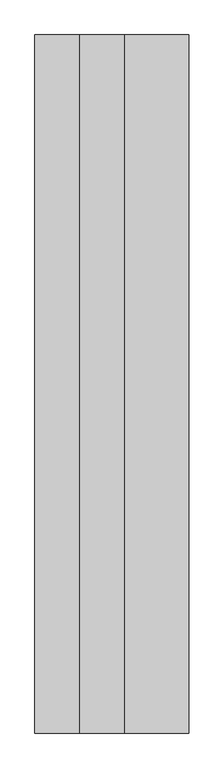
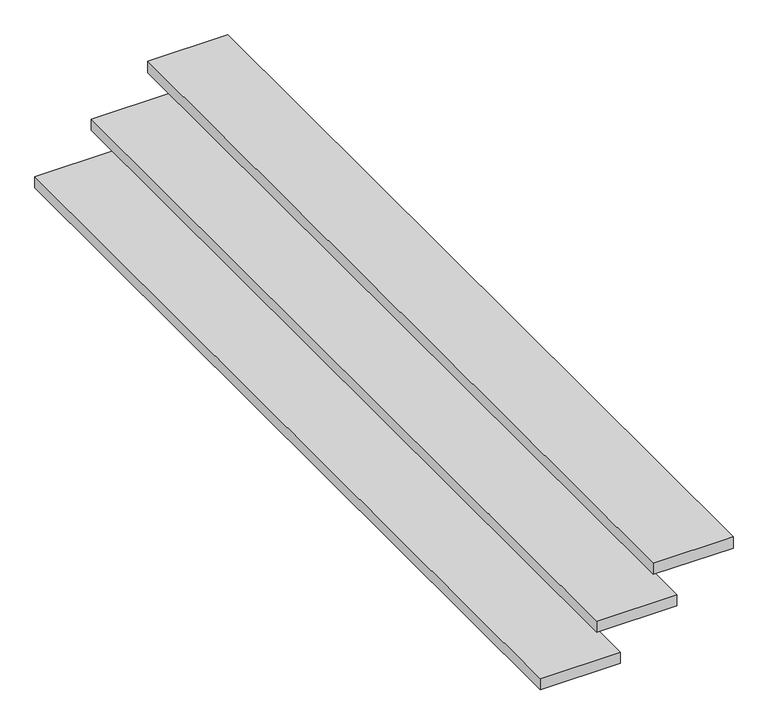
"""IFC4 building model written with IfcOpenShell, lengths in millimetres: stair flight geometry, 50 mm Tread 100 mm Nosing 15 mm Riser."""

from ifc_helpers import new_model, si_unit, frame, origin, place, context, project, spatial, polyline, outline, extrude, source, transform, mapped, element, save


def stair_flight_e6f8e67d(model_context):
    return source(origin(), model_context, "Body", "SweptSolid", [
        extrude(outline(polyline([(220.0, 4200.0), (220.0, 480.0), (-120.0, 480.0), (-120.0, 4200.0), (220.0, 4200.0)])), frame((0.0, 0.0, -575.0), z_axis=(0.0, 0.0, 1.0), x_axis=(1.0, 0.0, 0.0)), (0.0, 0.0, 1.0), 50.0),
        extrude(outline(polyline([(460.0, 4200.0), (460.0, 480.0), (120.0, 480.0), (120.0, 4200.0), (460.0, 4200.0)])), frame((0.0, 0.0, -400.0), z_axis=(0.0, 0.0, 1.0), x_axis=(1.0, 0.0, 0.0)), (0.0, 0.0, 1.0), 50.0),
        extrude(outline(polyline([(700.0, 4200.0), (700.0, 480.0), (360.0, 480.0), (360.0, 4200.0), (700.0, 4200.0)])), frame((0.0, 0.0, -225.0), z_axis=(0.0, 0.0, 1.0), x_axis=(1.0, 0.0, 0.0)), (0.0, 0.0, 1.0), 50.0),
    ])


if __name__ == "__main__":
    model = new_model("IFC4")
    model_context = context("Model", 3, world=origin())
    ifc_project = project(units=[si_unit("LENGTHUNIT", "METRE", prefix="MILLI")], contexts=[model_context])
    site = spatial("IfcSite", under=ifc_project)
    building = spatial("IfcBuilding", under=site)
    placement = place(None, origin())
    stair_flight_shape = stair_flight_e6f8e67d(model_context)
    element("IfcStairFlight", 1, ObjectType="50 mm Tread 100 mm Nosing 15 mm Riser", at=placement, inside=building, context=model_context, shape_type="MappedRepresentation", body=[
        mapped(stair_flight_shape, transform((0.0, 0.0, 0.0), x_axis=(1.0, 0.0, 0.0), y_axis=(0.0, 1.0, 0.0), z_axis=(0.0, 0.0, 1.0))),
    ])
    save(model, "model.ifc")
